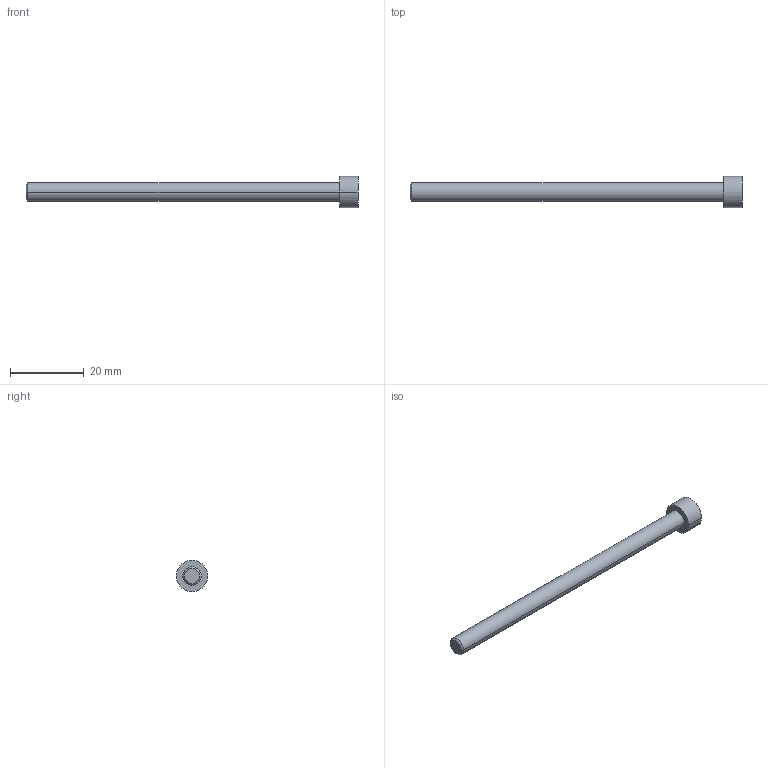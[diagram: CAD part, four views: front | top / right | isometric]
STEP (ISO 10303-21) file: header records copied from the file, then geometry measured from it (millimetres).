
FILE_DESCRIPTION((''),'2;1');
FILE_NAME('1823414014','2015-04-22T',('vol1hc'),(''),'PRO/ENGINEER BY PARAMETRIC TECHNOLOGY CORPORATION, 2009380','PRO/ENGINEER BY PARAMETRIC TECHNOLOGY CORPORATION, 2009380','');
FILE_SCHEMA(('CONFIG_CONTROL_DESIGN'));
Length unit declared in the file: millimetre
Products named in the file (1): 1823414014
Bounding box: 90 x 8.5 x 8.5 mm (x, y, z)
Volume: 1909.7 mm3; surface area: 1619.5 mm2
Topology: 1 solids, 1 shells, 16 faces, 34 edges, 22 vertices
Faces by surface type: plane 10, cylinder 4, cone 2
Entity records: 482 total; most frequent: DIRECTION 76, CARTESIAN_POINT 72, ORIENTED_EDGE 68, EDGE_CURVE 34, AXIS2_PLACEMENT_3D 26, VECTOR 24, LINE 24, VERTEX_POINT 22
